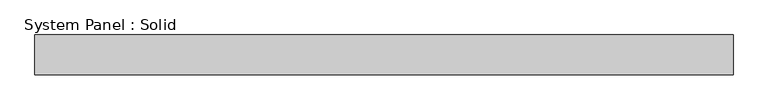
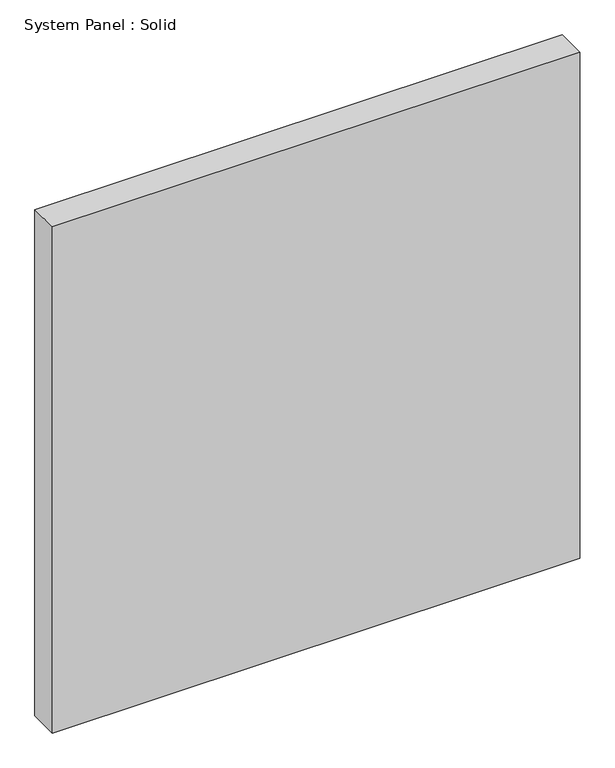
"""IFC4 building model written with IfcOpenShell, lengths in millimetres: plate geometry, System Panel : Solid."""

from ifc_helpers import new_model, si_unit, origin, origin_with_axes, place, context, project, spatial, polyline, outline, extrude, source, transform, mapped, element, save


def system_panel_solid_916aa2cc(model_context):
    return source(origin(), model_context, "Body", "SweptSolid", [
        extrude(outline(polyline([(554.0375, -19.05), (-554.0375, -19.05), (-554.0375, 44.45), (554.0375, 44.45), (554.0375, -19.05)])), origin_with_axes(), (0.0, 0.0, 1.0), 1123.95),
    ])


if __name__ == "__main__":
    model = new_model("IFC4")
    model_context = context("Model", 3, world=origin())
    ifc_project = project(units=[si_unit("LENGTHUNIT", "METRE", prefix="MILLI")], contexts=[model_context])
    site = spatial("IfcSite", under=ifc_project)
    building = spatial("IfcBuilding", under=site)
    placement = place(None, origin())
    system_panel_solid_shape = system_panel_solid_916aa2cc(model_context)
    element("IfcPlate", 1, ObjectType="System Panel : Solid", at=placement, inside=building, context=model_context, shape_type="MappedRepresentation", body=[
        mapped(system_panel_solid_shape, transform((0.0, 0.0, 0.0), x_axis=(1.0, 0.0, 0.0), y_axis=(0.0, 1.0, 0.0), z_axis=(0.0, 0.0, 1.0))),
    ])
    save(model, "model.ifc")
